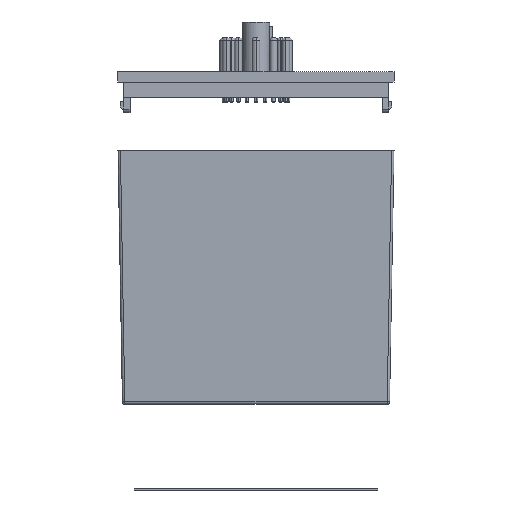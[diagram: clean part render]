
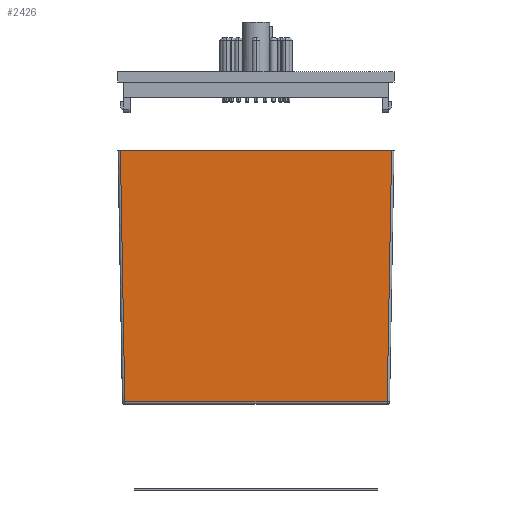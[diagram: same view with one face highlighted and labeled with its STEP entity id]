
A CAD part, front view. The second image highlights one B-rep face of the part: STEP entity #2426.
In plain terms, the highlighted planar face has unit normal (0, -1, -0.018).
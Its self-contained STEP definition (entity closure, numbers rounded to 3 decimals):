
#151 = EDGE_CURVE ( 'NONE', #3296, #1482, #5886, .T. ) ;
#825 = VECTOR ( 'NONE', #4280, 1000. ) ;
#953 = CARTESIAN_POINT ( 'NONE',  ( -40.25, -21.25, 0. ) ) ;
#960 = LINE ( 'NONE', #7599, #7076 ) ;
#1036 = LINE ( 'NONE', #1413, #5739 ) ;
#1189 = DIRECTION ( 'NONE',  ( 0., 0.017, -1. ) ) ;
#1240 = DIRECTION ( 'NONE',  ( 0., -1., -0.017 ) ) ;
#1413 = CARTESIAN_POINT ( 'NONE',  ( 38.958, -19.97, -73.312 ) ) ;
#1482 = VERTEX_POINT ( 'NONE', #6098 ) ;
#1800 = ORIENTED_EDGE ( 'NONE', *, *, #5896, .T. ) ;
#2268 = LINE ( 'NONE', #3374, #4100 ) ;
#2426 = ADVANCED_FACE ( 'NONE', ( #6487 ), #4420, .T. ) ;
#2910 = EDGE_CURVE ( 'NONE', #4428, #1482, #2268, .T. ) ;
#3221 = CARTESIAN_POINT ( 'NONE',  ( -38.27, -19.97, -73.312 ) ) ;
#3296 = VERTEX_POINT ( 'NONE', #5316 ) ;
#3374 = CARTESIAN_POINT ( 'NONE',  ( -40.25, -21.25, 0. ) ) ;
#3519 = VERTEX_POINT ( 'NONE', #3221 ) ;
#3672 = CARTESIAN_POINT ( 'NONE',  ( -39.55, -21.25, 0. ) ) ;
#3792 = ORIENTED_EDGE ( 'NONE', *, *, #2910, .F. ) ;
#4100 = VECTOR ( 'NONE', #6987, 1000. ) ;
#4130 = CARTESIAN_POINT ( 'NONE',  ( 39.526, -21.226, -1.392 ) ) ;
#4280 = DIRECTION ( 'NONE',  ( 0.017, -0.017, 1. ) ) ;
#4398 = ORIENTED_EDGE ( 'NONE', *, *, #151, .T. ) ;
#4420 = PLANE ( 'NONE',  #4567 ) ;
#4428 = VERTEX_POINT ( 'NONE', #3672 ) ;
#4567 = AXIS2_PLACEMENT_3D ( 'NONE', #953, #1240, #1189 ) ;
#4891 = EDGE_CURVE ( 'NONE', #4428, #3519, #960, .T. ) ;
#5316 = CARTESIAN_POINT ( 'NONE',  ( 38.27, -19.97, -73.312 ) ) ;
#5603 = ORIENTED_EDGE ( 'NONE', *, *, #4891, .T. ) ;
#5739 = VECTOR ( 'NONE', #6979, 1000. ) ;
#5886 = LINE ( 'NONE', #4130, #825 ) ;
#5896 = EDGE_CURVE ( 'NONE', #3519, #3296, #1036, .T. ) ;
#6098 = CARTESIAN_POINT ( 'NONE',  ( 39.55, -21.25, 0. ) ) ;
#6487 = FACE_OUTER_BOUND ( 'NONE', #6781, .T. ) ;
#6781 = EDGE_LOOP ( 'NONE', ( #3792, #5603, #1800, #4398 ) ) ;
#6979 = DIRECTION ( 'NONE',  ( 1., 0., 0. ) ) ;
#6987 = DIRECTION ( 'NONE',  ( 1., 0., 0. ) ) ;
#7076 = VECTOR ( 'NONE', #7546, 1000. ) ;
#7546 = DIRECTION ( 'NONE',  ( 0.017, 0.017, -1. ) ) ;
#7599 = CARTESIAN_POINT ( 'NONE',  ( -39.55, -21.25, 0.012 ) ) ;
